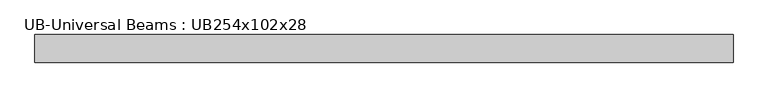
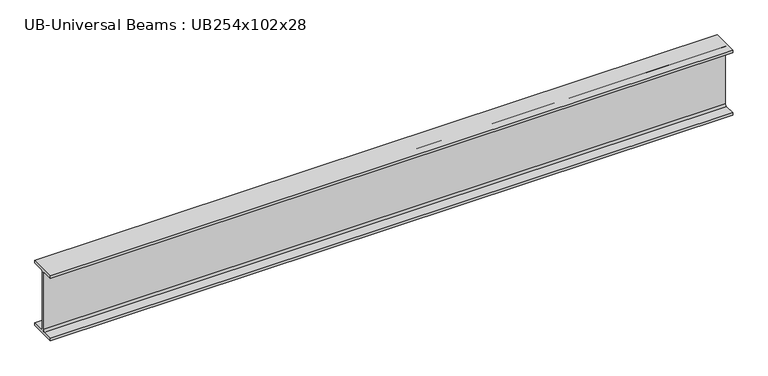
"""IFC4 building model written with IfcOpenShell, lengths in millimetres: beam geometry, UB-Universal Beams : UB254x102x28."""

from ifc_helpers import new_model, si_unit, point, frame, frame_2d, origin, place, context, project, spatial, polyline, circle_curve, trimmed, segment, composite_curve, outline, extrude, source, transform, mapped, element, save


def ub_universal_beams_ub254x102x28_da806db6(model_context):
    return source(origin(), model_context, "Body", "SweptSolid", [
        extrude(outline(composite_curve([segment(polyline([(51.1, -120.2), (51.1, -130.2), (-51.1, -130.2), (-51.1, -120.2), (-10.75, -120.2)]), True, "CONTINUOUS"), segment(trimmed(circle_curve(frame_2d((-10.75, -112.6)), 7.6), [point((-10.75, -120.2))], [point((-3.15, -112.6))], True, "CARTESIAN"), True, "CONTINUOUS"), segment(polyline([(-3.15, -112.6), (-3.15, 112.6)]), True, "CONTINUOUS"), segment(trimmed(circle_curve(frame_2d((-10.75, 112.6)), 7.6), [point((-3.15, 112.6))], [point((-10.75, 120.2))], True, "CARTESIAN"), True, "CONTINUOUS"), segment(polyline([(-10.75, 120.2), (-51.1, 120.2), (-51.1, 130.2), (51.1, 130.2), (51.1, 120.2), (10.75, 120.2)]), True, "CONTINUOUS"), segment(trimmed(circle_curve(frame_2d((10.75, 112.6)), 7.6), [point((10.75, 120.2))], [point((3.15, 112.6))], True, "CARTESIAN"), True, "CONTINUOUS"), segment(polyline([(3.15, 112.6), (3.15, -112.6)]), True, "CONTINUOUS"), segment(trimmed(circle_curve(frame_2d((10.75, -112.6)), 7.6), [point((3.15, -112.6))], [point((10.75, -120.2))], True, "CARTESIAN"), True, "CONTINUOUS"), segment(polyline([(10.75, -120.2), (51.1, -120.2)]), True, "CONTINUOUS")], self_intersect=False)), frame((-1284.1, 0.0, 0.0), z_axis=(1.0, 0.0, 0.0), x_axis=(0.0, 1.0, 0.0)), (0.0, 0.0, 1.0), 2585.3),
    ])


if __name__ == "__main__":
    model = new_model("IFC4")
    model_context = context("Model", 3, world=origin())
    ifc_project = project(units=[si_unit("LENGTHUNIT", "METRE", prefix="MILLI")], contexts=[model_context])
    site = spatial("IfcSite", under=ifc_project)
    building = spatial("IfcBuilding", under=site)
    placement = place(None, origin())
    ub_universal_beams_ub254x102x28_shape = ub_universal_beams_ub254x102x28_da806db6(model_context)
    element("IfcBeam", 1, ObjectType="UB-Universal Beams : UB254x102x28", at=placement, inside=building, context=model_context, shape_type="MappedRepresentation", body=[
        mapped(ub_universal_beams_ub254x102x28_shape, transform((0.0, 0.0, 0.0), x_axis=(1.0, 0.0, 0.0), y_axis=(0.0, 1.0, 0.0), z_axis=(0.0, 0.0, 1.0))),
    ])
    save(model, "model.ifc")
